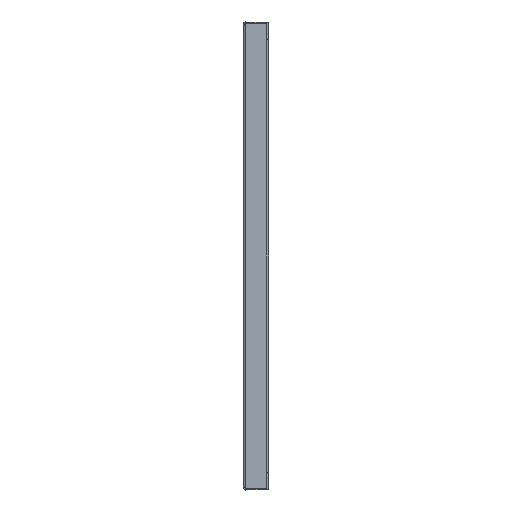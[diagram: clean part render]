
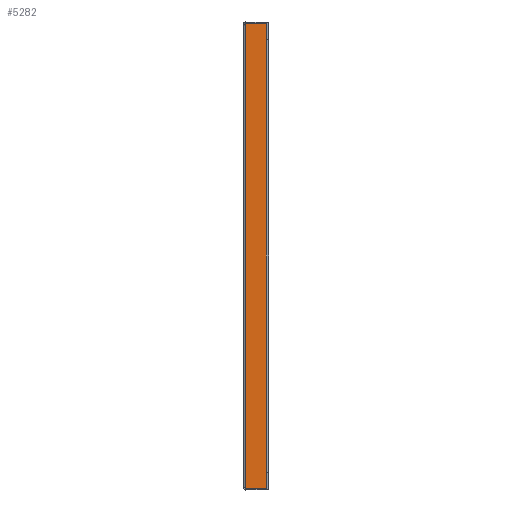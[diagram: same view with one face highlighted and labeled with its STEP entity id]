
A CAD part, left-side view. The second image highlights one B-rep face of the part: STEP entity #5282.
In plain terms, the highlighted planar face has unit normal (-1, 0, 0).
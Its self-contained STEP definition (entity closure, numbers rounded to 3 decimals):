
#374 = ORIENTED_EDGE ( 'NONE', *, *, #5805, .T. ) ;
#540 = CARTESIAN_POINT ( 'NONE',  ( -499.5, -19.8, -184.4 ) ) ;
#682 = EDGE_LOOP ( 'NONE', ( #374, #1313, #2593, #2885, #3146, #8467, #4018, #4036 ) ) ;
#752 = CARTESIAN_POINT ( 'NONE',  ( -499.5, -19.8, 197.8 ) ) ;
#976 = B_SPLINE_CURVE_WITH_KNOTS ( 'NONE', 3,
 ( #6161, #6187, #1820, #1903 ),
 .UNSPECIFIED., .F., .F.,
 ( 4, 4 ),
 ( 0., 1. ),
 .UNSPECIFIED. ) ;
#1313 = ORIENTED_EDGE ( 'NONE', *, *, #7274, .T. ) ;
#1350 = CARTESIAN_POINT ( 'NONE',  ( -499.5, -19.8, 197.8 ) ) ;
#1425 = CARTESIAN_POINT ( 'NONE',  ( -499.5, -19.8, 188.867 ) ) ;
#1557 = EDGE_CURVE ( 'NONE', #3605, #6607, #7410, .T. ) ;
#1584 = EDGE_CURVE ( 'NONE', #6607, #5230, #976, .T. ) ;
#1767 = CARTESIAN_POINT ( 'NONE',  ( -499.5, -2.1, 197.8 ) ) ;
#1820 = CARTESIAN_POINT ( 'NONE',  ( -499.5, -19.667, 184.4 ) ) ;
#1903 = CARTESIAN_POINT ( 'NONE',  ( -499.5, -19.8, 184.4 ) ) ;
#1926 = CARTESIAN_POINT ( 'NONE',  ( -499.5, -19.8, -197.8 ) ) ;
#2121 = CARTESIAN_POINT ( 'NONE',  ( -499.5, -19.8, 184.4 ) ) ;
#2201 = AXIS2_PLACEMENT_3D ( 'NONE', #4475, #2298, #4442 ) ;
#2298 = DIRECTION ( 'NONE',  ( -1., 0., 0. ) ) ;
#2403 = CARTESIAN_POINT ( 'NONE',  ( -499.5, -19.4, -184.4 ) ) ;
#2433 = CARTESIAN_POINT ( 'NONE',  ( -499.5, -19.4, 61.467 ) ) ;
#2593 = ORIENTED_EDGE ( 'NONE', *, *, #7876, .T. ) ;
#2613 = VERTEX_POINT ( 'NONE', #8338 ) ;
#2885 = ORIENTED_EDGE ( 'NONE', *, *, #1557, .T. ) ;
#2893 = CARTESIAN_POINT ( 'NONE',  ( -499.5, -19.8, 193.333 ) ) ;
#3029 = B_SPLINE_CURVE_WITH_KNOTS ( 'NONE', 3,
 ( #8130, #7499, #3195, #3896 ),
 .UNSPECIFIED., .F., .F.,
 ( 4, 4 ),
 ( 0., 1. ),
 .UNSPECIFIED. ) ;
#3146 = ORIENTED_EDGE ( 'NONE', *, *, #1584, .T. ) ;
#3195 = CARTESIAN_POINT ( 'NONE',  ( -499.5, -13.9, -197.8 ) ) ;
#3605 = VERTEX_POINT ( 'NONE', #8748 ) ;
#3896 = CARTESIAN_POINT ( 'NONE',  ( -499.5, -19.8, -197.8 ) ) ;
#3908 = VERTEX_POINT ( 'NONE', #8250 ) ;
#4018 = ORIENTED_EDGE ( 'NONE', *, *, #8293, .T. ) ;
#4036 = ORIENTED_EDGE ( 'NONE', *, *, #8973, .F. ) ;
#4326 = VERTEX_POINT ( 'NONE', #1350 ) ;
#4442 = DIRECTION ( 'NONE',  ( 0., 1., 0. ) ) ;
#4475 = CARTESIAN_POINT ( 'NONE',  ( -499.5, -19.8, -197.8 ) ) ;
#4515 = CARTESIAN_POINT ( 'NONE',  ( -499.5, -2.1, 197.8 ) ) ;
#4570 = CARTESIAN_POINT ( 'NONE',  ( -499.5, -19.4, 184.4 ) ) ;
#4585 = CARTESIAN_POINT ( 'NONE',  ( -499.5, -2.1, -65.933 ) ) ;
#4692 = B_SPLINE_CURVE_WITH_KNOTS ( 'NONE', 3,
 ( #2121, #1425, #2893, #752 ),
 .UNSPECIFIED., .F., .F.,
 ( 4, 4 ),
 ( 0., 1. ),
 .UNSPECIFIED. ) ;
#4917 = B_SPLINE_CURVE_WITH_KNOTS ( 'NONE', 3,
 ( #6048, #4585, #9010, #1767 ),
 .UNSPECIFIED., .F., .F.,
 ( 4, 4 ),
 ( 0., 1. ),
 .UNSPECIFIED. ) ;
#4946 = CARTESIAN_POINT ( 'NONE',  ( -499.5, -19.8, -184.4 ) ) ;
#5187 = B_SPLINE_CURVE_WITH_KNOTS ( 'NONE', 3,
 ( #7547, #7511, #6671, #4515 ),
 .UNSPECIFIED., .F., .F.,
 ( 4, 4 ),
 ( 0., 1. ),
 .UNSPECIFIED. ) ;
#5230 = VERTEX_POINT ( 'NONE', #7923 ) ;
#5236 = CARTESIAN_POINT ( 'NONE',  ( -499.5, -2.1, -197.8 ) ) ;
#5282 = ADVANCED_FACE ( 'NONE', ( #8109 ), #6633, .T. ) ;
#5805 = EDGE_CURVE ( 'NONE', #7297, #7510, #3029, .T. ) ;
#6048 = CARTESIAN_POINT ( 'NONE',  ( -499.5, -2.1, -197.8 ) ) ;
#6131 = B_SPLINE_CURVE_WITH_KNOTS ( 'NONE', 3,
 ( #8704, #7843, #7881, #4946 ),
 .UNSPECIFIED., .F., .F.,
 ( 4, 4 ),
 ( 0., 1. ),
 .UNSPECIFIED. ) ;
#6161 = CARTESIAN_POINT ( 'NONE',  ( -499.5, -19.4, 184.4 ) ) ;
#6187 = CARTESIAN_POINT ( 'NONE',  ( -499.5, -19.533, 184.4 ) ) ;
#6458 = EDGE_CURVE ( 'NONE', #5230, #4326, #4692, .T. ) ;
#6607 = VERTEX_POINT ( 'NONE', #7234 ) ;
#6633 = PLANE ( 'NONE',  #2201 ) ;
#6671 = CARTESIAN_POINT ( 'NONE',  ( -499.5, -8., 197.8 ) ) ;
#7234 = CARTESIAN_POINT ( 'NONE',  ( -499.5, -19.4, 184.4 ) ) ;
#7274 = EDGE_CURVE ( 'NONE', #7510, #2613, #6131, .T. ) ;
#7297 = VERTEX_POINT ( 'NONE', #5236 ) ;
#7410 = B_SPLINE_CURVE_WITH_KNOTS ( 'NONE', 3,
 ( #2403, #7478, #2433, #4570 ),
 .UNSPECIFIED., .F., .F.,
 ( 4, 4 ),
 ( 0., 1. ),
 .UNSPECIFIED. ) ;
#7478 = CARTESIAN_POINT ( 'NONE',  ( -499.5, -19.4, -61.467 ) ) ;
#7499 = CARTESIAN_POINT ( 'NONE',  ( -499.5, -8., -197.8 ) ) ;
#7510 = VERTEX_POINT ( 'NONE', #1926 ) ;
#7511 = CARTESIAN_POINT ( 'NONE',  ( -499.5, -13.9, 197.8 ) ) ;
#7547 = CARTESIAN_POINT ( 'NONE',  ( -499.5, -19.8, 197.8 ) ) ;
#7677 = CARTESIAN_POINT ( 'NONE',  ( -499.5, -19.533, -184.4 ) ) ;
#7786 = B_SPLINE_CURVE_WITH_KNOTS ( 'NONE', 3,
 ( #540, #8461, #7677, #8396 ),
 .UNSPECIFIED., .F., .F.,
 ( 4, 4 ),
 ( 0., 1. ),
 .UNSPECIFIED. ) ;
#7843 = CARTESIAN_POINT ( 'NONE',  ( -499.5, -19.8, -193.333 ) ) ;
#7876 = EDGE_CURVE ( 'NONE', #2613, #3605, #7786, .T. ) ;
#7881 = CARTESIAN_POINT ( 'NONE',  ( -499.5, -19.8, -188.867 ) ) ;
#7923 = CARTESIAN_POINT ( 'NONE',  ( -499.5, -19.8, 184.4 ) ) ;
#8109 = FACE_OUTER_BOUND ( 'NONE', #682, .T. ) ;
#8130 = CARTESIAN_POINT ( 'NONE',  ( -499.5, -2.1, -197.8 ) ) ;
#8250 = CARTESIAN_POINT ( 'NONE',  ( -499.5, -2.1, 197.8 ) ) ;
#8293 = EDGE_CURVE ( 'NONE', #4326, #3908, #5187, .T. ) ;
#8338 = CARTESIAN_POINT ( 'NONE',  ( -499.5, -19.8, -184.4 ) ) ;
#8396 = CARTESIAN_POINT ( 'NONE',  ( -499.5, -19.4, -184.4 ) ) ;
#8461 = CARTESIAN_POINT ( 'NONE',  ( -499.5, -19.667, -184.4 ) ) ;
#8467 = ORIENTED_EDGE ( 'NONE', *, *, #6458, .T. ) ;
#8704 = CARTESIAN_POINT ( 'NONE',  ( -499.5, -19.8, -197.8 ) ) ;
#8748 = CARTESIAN_POINT ( 'NONE',  ( -499.5, -19.4, -184.4 ) ) ;
#8973 = EDGE_CURVE ( 'NONE', #7297, #3908, #4917, .T. ) ;
#9010 = CARTESIAN_POINT ( 'NONE',  ( -499.5, -2.1, 65.933 ) ) ;
